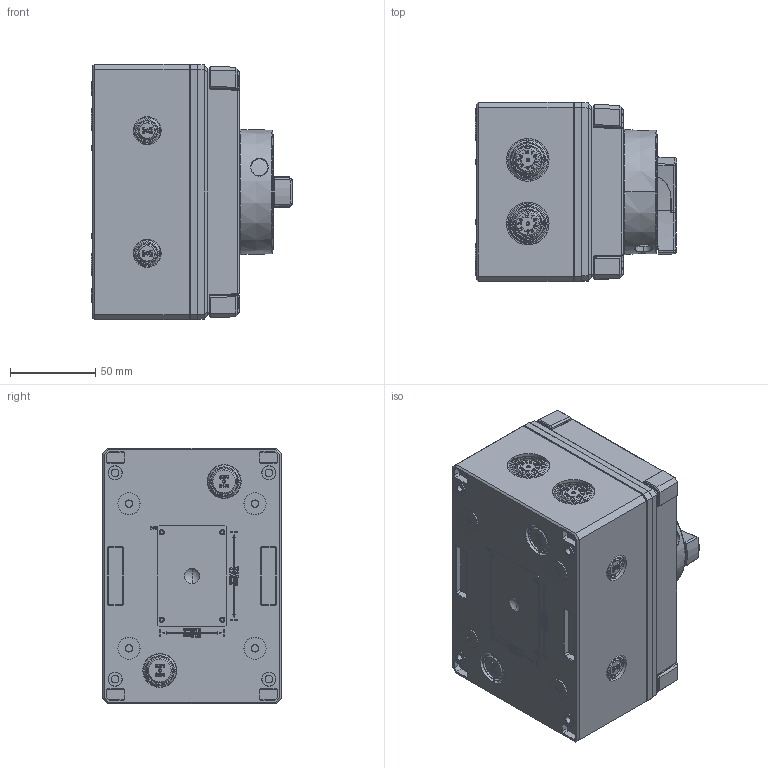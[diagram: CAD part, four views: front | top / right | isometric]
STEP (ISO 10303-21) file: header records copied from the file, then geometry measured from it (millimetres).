
FILE_DESCRIPTION (( 'STEP AP203' ), '1' );
FILE_NAME ('NF2-40BO.STEP', '2024-03-01T04:56:47', ( 'wzjh' ), ( '' ), 'SwSTEP 2.0', 'SolidWorks 2023', '' );
FILE_SCHEMA (( 'CONFIG_CONTROL_DESIGN' ));
Products named in the file (1): NF2-40BO
Bounding box: 118.25 x 105 x 150 mm (x, y, z)
Volume: 1345838 mm3; surface area: 123748 mm2
Topology: 3 solids, 20 shells, 3655 faces, 9803 edges, 6414 vertices
Faces by surface type: plane 2129, bspline 835, cylinder 352, cone 235, torus 65, sphere 39
Entity records: 131713 total; most frequent: CARTESIAN_POINT 47174, ORIENTED_EDGE 19504, DIRECTION 14148, EDGE_CURVE 9752, VERTEX_POINT 6409, VECTOR 5692, LINE 5692, AXIS2_PLACEMENT_3D 4228
